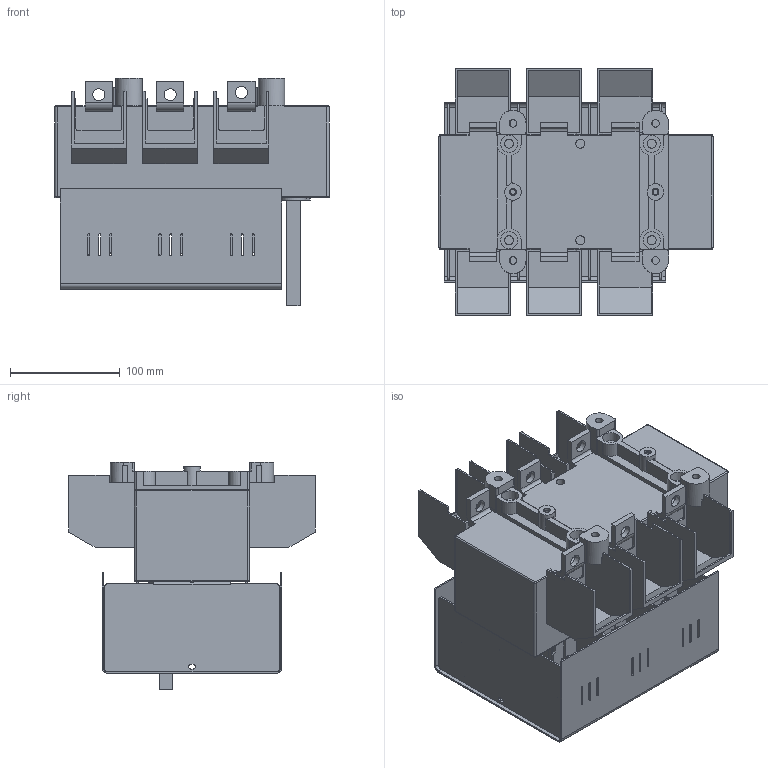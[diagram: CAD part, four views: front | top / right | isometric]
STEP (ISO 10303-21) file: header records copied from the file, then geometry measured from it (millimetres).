
FILE_DESCRIPTION(/* description */ (''),/* implementation_level */ '2;1');
FILE_NAME(/* name */ 'RAB 2 P3 C z oslona zaciskow.stp',/* time_stamp */ '2021-08-19T14:26:00+02:00',/* author */ (''),/* organization */ (''),/* preprocessor_version */ 'ST-DEVELOPER v18.1',/* originating_system */ 'SIEMENS PLM Software NX 1965',/* authorisation */ '');
FILE_SCHEMA (('AUTOMOTIVE_DESIGN { 1 0 10303 214 3 1 1 1 }'));
Length unit declared in the file: millimetre
Products named in the file (1): RAB 2 P3 C z oslona zaciskow_stp
Bounding box: 250 x 225 x 207.3 mm (x, y, z)
Volume: 2595015.4 mm3; surface area: 556145.2 mm2
Topology: 1 solids, 1 shells, 1164 faces, 3312 edges, 2166 vertices
Faces by surface type: plane 800, cylinder 356, torus 5, bspline 3
Full cylindrical faces by diameter (mm): 4.8 x2, 6.2 x2, 7 x4, 8.2 x6, 11 x6, 14 x4, 15 x2, 15.5 x4
Entity records: 37803 total; most frequent: CARTESIAN_POINT 6684, ORIENTED_EDGE 6548, DIRECTION 6350, EDGE_CURVE 3274, LINE 2510, VECTOR 2510, VERTEX_POINT 2158, AXIS2_PLACEMENT_3D 1920
